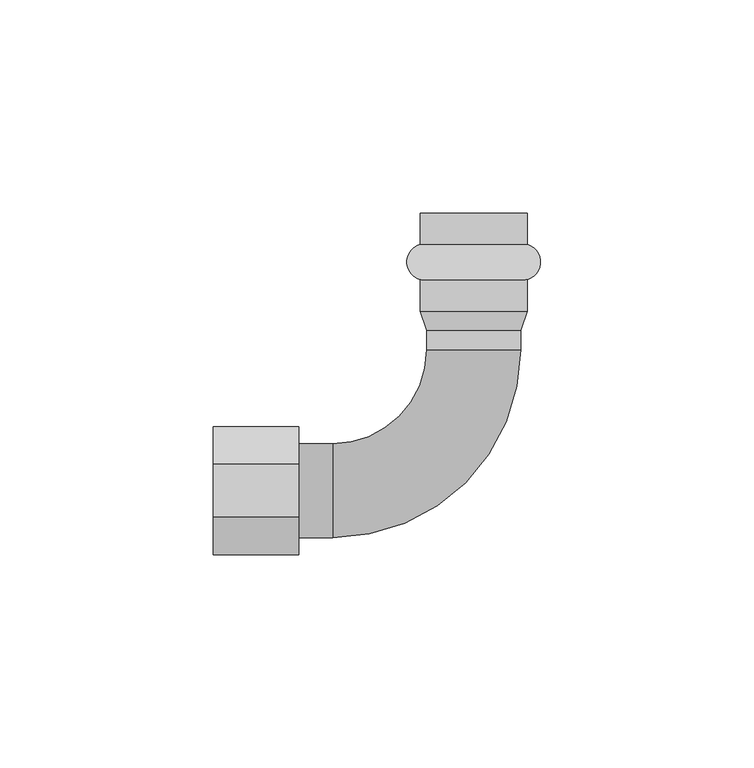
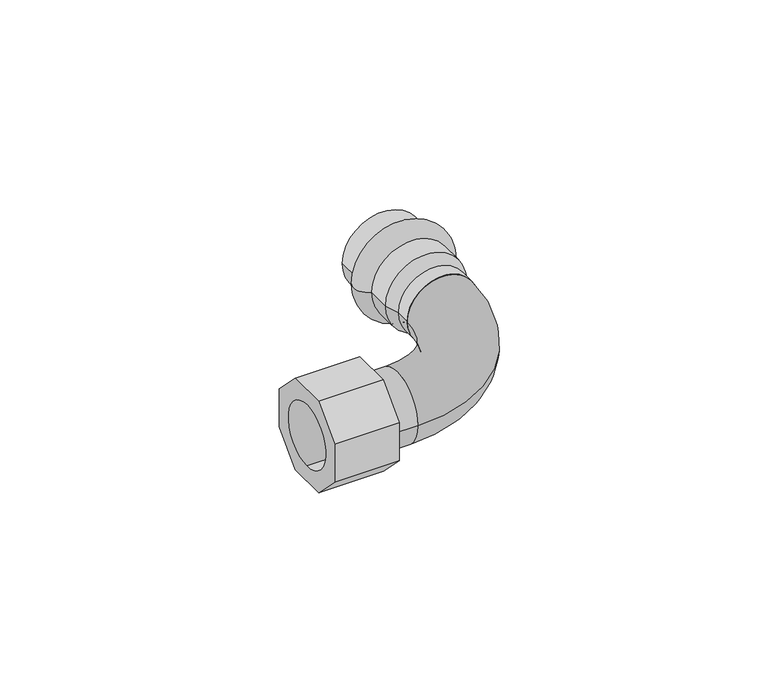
"""IFC4 building model written with IfcOpenShell, lengths in millimetres: valve geometry, Отвод_90°_с_переходом_на_внутреннюю_резьбу : Отвод_90°_с_переходом_на_внутреннюю_резьбу."""

from ifc_helpers import new_model, si_unit, point, frame, origin, origin_2d, place, context, project, spatial, polyline, circle_curve, ellipse_curve, trimmed, segment, composite_curve, outline, extrude, source, transform, mapped, element, save
from ifc_brep_helpers import plane_surface, cylinder_surface, revolved_surface, advanced_brep


def valve_139ffe19(model_context):
    return source(origin(), model_context, "Body", "SolidModel", [
        extrude(outline(polyline([(6.2132034, -15.0), (-6.2132034, -15.0), (-15.0, -6.2132034), (-15.0, 6.2132034), (-6.2132034, 15.0), (6.2132034, 15.0), (15.0, 6.2132034), (15.0, -6.2132034), (6.2132034, -15.0)]), holes=[composite_curve([segment(trimmed(circle_curve(origin_2d(), 10.0), [point((0.0, 10.0))], [point((0.0, -10.0))], True, "CARTESIAN"), True, "CONTINUOUS"), segment(trimmed(circle_curve(origin_2d(), 10.0), [point((0.0, -10.0))], [point((0.0, 10.0))], True, "CARTESIAN"), True, "CONTINUOUS")], self_intersect=False)]), frame((-61.0, 0.0, 0.0), z_axis=(1.0, 0.0, 0.0), x_axis=(0.0, 1.0, 0.0)), (0.0, 0.0, 1.0), 20.0),
        advanced_brep(
        [(12.55, 57.73, 0.0), (-12.55, 57.73, 0.0), (-12.55, 65.0, 0.0), (12.55, 65.0, 0.0), (12.55, 49.47, 0.0), (-12.55, 49.47, 0.0), (12.55, 42.0, 0.0), (-12.55, 42.0, 0.0), (11.0, 37.6, 0.0), (-11.0, 37.6, 0.0), (11.0, 33.0, 0.0), (-11.0, 33.0, 0.0), (0.0, 33.0, 0.0), (0.0, 65.0, 0.0)],
        [
            (0, 1, circle_curve(frame((0.0, 57.73, 0.0), z_axis=(0.0, 1.0, 0.0), x_axis=(-1.0, 0.0, 0.0)), 12.55)),
            (1, 2),
            (2, 3, circle_curve(frame((0.0, 65.0, 0.0), z_axis=(0.0, -1.0, 0.0), x_axis=(-1.0, 0.0, 0.0)), 12.55)),
            (3, 0),
            (1, 0, circle_curve(frame((0.0, 57.73, 0.0), z_axis=(0.0, 1.0, 0.0), x_axis=(-1.0, 0.0, 0.0)), 12.55)),
            (3, 2, circle_curve(frame((0.0, 65.0, 0.0), z_axis=(0.0, -1.0, 0.0), x_axis=(-1.0, 0.0, 0.0)), 12.55)),
            (4, 5, circle_curve(frame((0.0, 49.47, 0.0), z_axis=(0.0, 1.0, 0.0), x_axis=(-1.0, 0.0, 0.0)), 12.55)),
            (5, 1, circle_curve(frame((-11.3504491, 53.6, 0.0), z_axis=(0.0, 0.0, -1.0), x_axis=(0.0, 1.0, 0.0)), 4.300677)),
            (0, 4, circle_curve(frame((11.3504491, 53.6, 0.0), z_axis=(0.0, 0.0, -1.0), x_axis=(0.0, 1.0, 0.0)), 4.300677)),
            (5, 4, circle_curve(frame((0.0, 49.47, 0.0), z_axis=(0.0, 1.0, 0.0), x_axis=(-1.0, 0.0, 0.0)), 12.55)),
            (6, 7, circle_curve(frame((0.0, 42.0, 0.0), z_axis=(0.0, 1.0, 0.0), x_axis=(-1.0, 0.0, 0.0)), 12.55)),
            (7, 5),
            (4, 6),
            (7, 6, circle_curve(frame((0.0, 42.0, 0.0), z_axis=(0.0, 1.0, 0.0), x_axis=(-1.0, 0.0, 0.0)), 12.55)),
            (8, 9, circle_curve(frame((0.0, 37.6, 0.0), z_axis=(0.0, 1.0, 0.0), x_axis=(-1.0, 0.0, 0.0)), 11.0)),
            (9, 7),
            (6, 8),
            (9, 8, circle_curve(frame((0.0, 37.6, 0.0), z_axis=(0.0, 1.0, 0.0), x_axis=(-1.0, 0.0, 0.0)), 11.0)),
            (10, 11, circle_curve(frame((0.0, 33.0, 0.0), z_axis=(0.0, 1.0, 0.0), x_axis=(-1.0, 0.0, 0.0)), 11.0)),
            (11, 9),
            (8, 10),
            (11, 10, circle_curve(frame((0.0, 33.0, 0.0), z_axis=(0.0, 1.0, 0.0), x_axis=(-1.0, 0.0, 0.0)), 11.0)),
            (12, 11),
            (10, 12),
            (2, 13),
            (13, 3),
        ],
        [
            cylinder_surface(frame((0.0, 2065.0, 0.0), z_axis=(0.0, -1.0, 0.0), x_axis=(-1.0, 0.0, 0.0)), 12.55),
            revolved_surface(trimmed(ellipse_curve(frame((-11.3504491, 53.6, 0.0), z_axis=(0.0, 0.0, 1.0), x_axis=(0.0, 1.0, 0.0)), 4.300677, 4.300677), [point((-12.55, 57.73, 0.0))], [point((-12.55, 49.47, 0.0))], True, "CARTESIAN"), (0.0, 2065.0, 0.0), (0.0, -1.0, 0.0)),
            revolved_surface(polyline([(-12.55, 42.0, 0.0), (-11.0, 37.6, 0.0)]), (0.0, 2065.0, 0.0), (0.0, -1.0, 0.0)),
            cylinder_surface(frame((0.0, 2065.0, 0.0), z_axis=(0.0, -1.0, 0.0), x_axis=(-1.0, 0.0, 0.0)), 11.0),
            plane_surface(frame((0.0, 33.0, 0.0), z_axis=(0.0, -1.0, 0.0), x_axis=(-1.0, 0.0, 0.0))),
            plane_surface(frame((0.0, 65.0, 0.0), z_axis=(0.0, 1.0, 0.0), x_axis=(-1.0, 0.0, 0.0))),
        ],
        [
            (0, [[1, 2, 3, 4]]),
            (0, [[5, -4, 6, -2]]),
            (1, [[7, 8, -1, 9]]),
            (1, [[10, -9, -5, -8]]),
            (0, [[11, 12, -7, 13]]),
            (0, [[14, -13, -10, -12]]),
            (2, [[15, 16, -11, 17]]),
            (2, [[18, -17, -14, -16]]),
            (3, [[19, 20, -15, 21]]),
            (3, [[22, -21, -18, -20]]),
            (4, [[23, -19, 24]]),
            (4, [[-24, -22, -23]]),
            (5, [[-3, 25, 26]]),
            (5, [[-6, -26, -25]]),
        ],
    ),
        advanced_brep(
        [(-33.0, -11.0, 0.0), (-33.0, 11.0, 0.0), (-33.0, 0.0, 0.0), (-41.0, -11.0, 0.0), (-41.0, 11.0, 0.0), (-41.0, 0.0, 0.0)],
        [
            (0, 1, circle_curve(frame((-33.0, 0.0, 0.0), z_axis=(1.0, 0.0, 0.0), x_axis=(0.0, 1.0, 0.0)), 11.0)),
            (1, 2),
            (2, 0),
            (1, 0, circle_curve(frame((-33.0, 0.0, 0.0), z_axis=(1.0, 0.0, 0.0), x_axis=(0.0, 1.0, 0.0)), 11.0)),
            (3, 4, circle_curve(frame((-41.0, 0.0, 0.0), z_axis=(1.0, 0.0, 0.0), x_axis=(0.0, 1.0, 0.0)), 11.0)),
            (4, 1),
            (0, 3),
            (4, 3, circle_curve(frame((-41.0, 0.0, 0.0), z_axis=(1.0, 0.0, 0.0), x_axis=(0.0, 1.0, 0.0)), 11.0)),
            (5, 4),
            (3, 5),
        ],
        [
            plane_surface(frame((-33.0, 0.0, 0.0), z_axis=(1.0, 0.0, 0.0), x_axis=(0.0, 1.0, 0.0))),
            cylinder_surface(frame((2000.0, 0.0, 0.0), z_axis=(-1.0, 0.0, 0.0), x_axis=(0.0, 1.0, 0.0)), 11.0),
            plane_surface(frame((-41.0, 0.0, 0.0), z_axis=(-1.0, 0.0, 0.0), x_axis=(0.0, 1.0, 0.0))),
        ],
        [
            (0, [[1, 2, 3]]),
            (0, [[4, -3, -2]]),
            (1, [[5, 6, -1, 7]]),
            (1, [[8, -7, -4, -6]]),
            (2, [[9, -5, 10]]),
            (2, [[-10, -8, -9]]),
        ],
    ),
        advanced_brep(
        [(-11.0, 33.0, 0.0), (11.0, 33.0, 0.0), (-33.0, 11.0, 0.0), (-33.0, -11.0, 0.0)],
        [
            (0, 1, circle_curve(frame((0.0, 33.0, 0.0), z_axis=(0.0, 1.0, 0.0), x_axis=(1.0, 0.0, 0.0)), 11.0)),
            (1, 0, circle_curve(frame((0.0, 33.0, 0.0), z_axis=(0.0, 1.0, 0.0), x_axis=(1.0, 0.0, 0.0)), 11.0)),
            (2, 3, circle_curve(frame((-33.0, 0.0, 0.0), z_axis=(-1.0, 0.0, 0.0), x_axis=(0.0, -1.0, 0.0)), 11.0)),
            (3, 2, circle_curve(frame((-33.0, 0.0, 0.0), z_axis=(-1.0, 0.0, 0.0), x_axis=(0.0, -1.0, 0.0)), 11.0)),
            (3, 1, circle_curve(frame((-33.0, 33.0, 0.0), z_axis=(0.0, 0.0, 1.0), x_axis=(1.0, 0.0, 0.0)), 44.0)),
            (0, 2, circle_curve(frame((-33.0, 33.0, 0.0), z_axis=(0.0, 0.0, -1.0), x_axis=(1.0, 0.0, 0.0)), 22.0)),
        ],
        [
            plane_surface(frame((0.0, 33.0, 0.0), z_axis=(0.0, 1.0, 0.0), x_axis=(0.0, 0.0, 1.0))),
            plane_surface(frame((-33.0, 0.0, 0.0), z_axis=(-1.0, 0.0, 0.0), x_axis=(0.0, 0.0, 1.0))),
            revolved_surface(trimmed(ellipse_curve(frame((0.0, 33.0, 0.0), z_axis=(0.0, 1.0, 0.0), x_axis=(1.0, 0.0, 0.0)), 11.0, 11.0), [point((-11.0, 33.0, 0.0))], [point((11.0, 33.0, 0.0))], True, "CARTESIAN"), (-33.0, 33.0, 0.0), (0.0, 0.0, -1.0)),
            revolved_surface(trimmed(ellipse_curve(frame((0.0, 33.0, 0.0), z_axis=(0.0, 1.0, 0.0), x_axis=(1.0, 0.0, 0.0)), 11.0, 11.0), [point((11.0, 33.0, 0.0))], [point((-11.0, 33.0, 0.0))], True, "CARTESIAN"), (-33.0, 33.0, 0.0), (0.0, 0.0, -1.0)),
        ],
        [
            (0, [[1, 2]]),
            (1, [[3, 4]]),
            (2, [[5, -1, 6, -4]]),
            (3, [[-6, -2, -5, -3]]),
        ],
    ),
    ])


if __name__ == "__main__":
    model = new_model("IFC4")
    model_context = context("Model", 3, world=origin())
    ifc_project = project(units=[si_unit("LENGTHUNIT", "METRE", prefix="MILLI")], contexts=[model_context])
    site = spatial("IfcSite", under=ifc_project)
    building = spatial("IfcBuilding", under=site)
    placement = place(None, origin())
    valve_shape = valve_139ffe19(model_context)
    element("IfcValve", 1, ObjectType="Отвод_90°_с_переходом_на_внутреннюю_резьбу : Отвод_90°_с_переходом_на_внутреннюю_резьбу", at=placement, inside=building, context=model_context, shape_type="MappedRepresentation", body=[
        mapped(valve_shape, transform((0.0, 0.0, 0.0), x_axis=(1.0, 0.0, 0.0), y_axis=(0.0, 1.0, 0.0), z_axis=(0.0, 0.0, 1.0))),
    ])
    save(model, "model.ifc")
